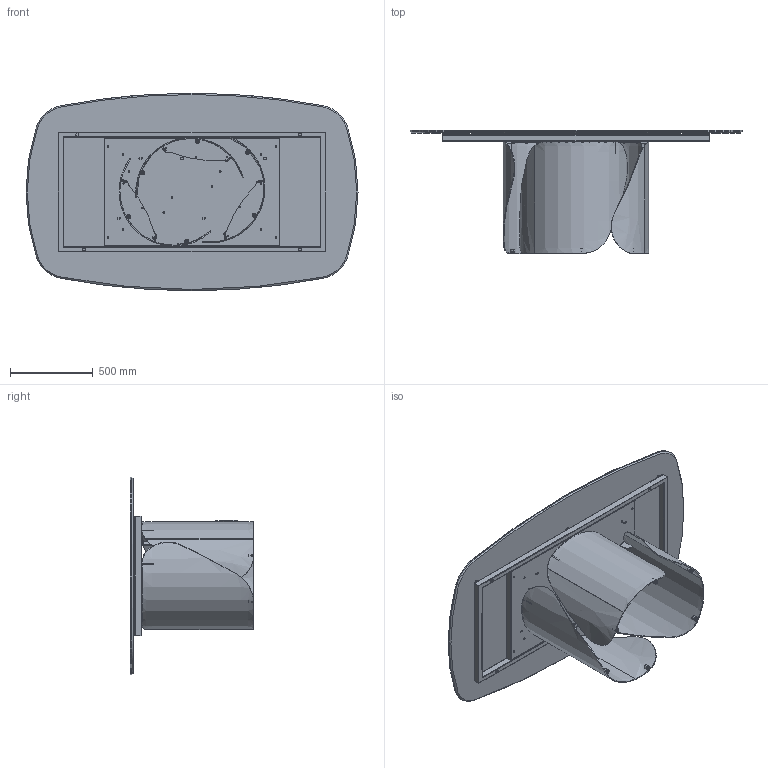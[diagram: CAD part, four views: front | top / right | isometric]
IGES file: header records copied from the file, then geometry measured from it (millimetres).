
Start section: SolidWorks IGES file using analytic representation for surfaces
Global section: file name: Y:\eforma\TECNICO\SOLIDWORKS\E-FORMA\1-TAVOLI\ONDA\02 parts\ON40C.IGS; native system: SolidWorks 2022; preprocessor: SolidWorks 2022; author: eforma.tech; date: 240806.155310; units: millimetre
Bounding box: 2000 x 742 x 1190 mm (x, y, z)
Volume: 47127931 mm3; surface area: 14955031.4 mm2
Topology: 64 solids, 64 shells, 1572 faces, 3558 edges, 2144 vertices
Faces by surface type: revolution 932, plane 580, bspline 60
